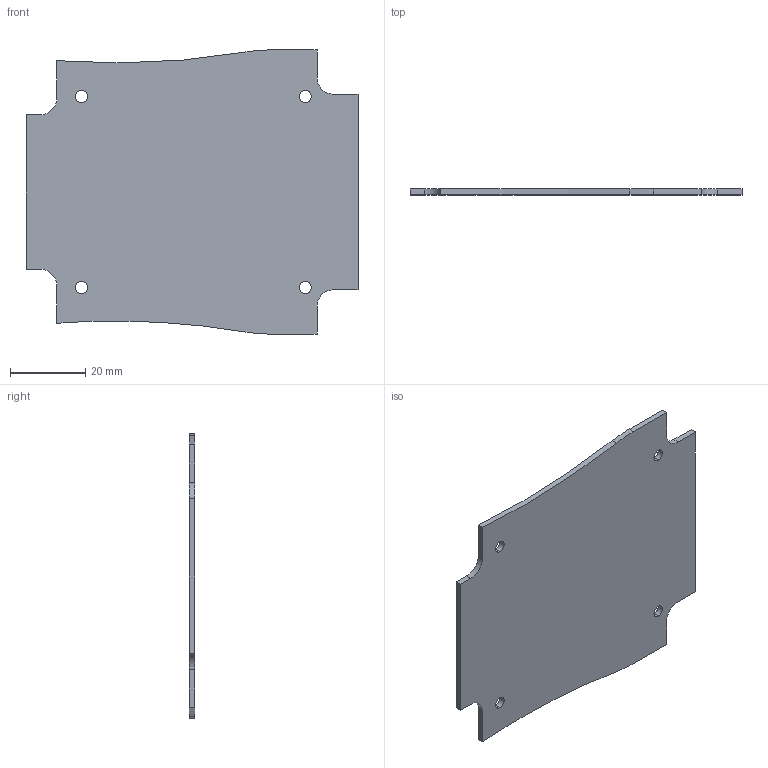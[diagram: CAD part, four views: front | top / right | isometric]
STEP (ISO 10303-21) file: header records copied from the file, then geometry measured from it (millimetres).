
FILE_DESCRIPTION (( 'STEP AP214' ), '1' );
FILE_NAME ('VM-35B-PCB.STEP', '2025-03-26T16:54:01', ( '' ), ( '' ), 'SwSTEP 2.0', 'SolidWorks 2025', '' );
FILE_SCHEMA (( 'AUTOMOTIVE_DESIGN' ));
Length unit declared in the file: inch
Products named in the file (1): VM-35B-PCB
Bounding box: 88.31 x 1.59 x 75.57 mm (x, y, z)
Volume: 9274.4 mm3; surface area: 12247.5 mm2
Topology: 1 solids, 1 shells, 31 faces, 87 edges, 58 vertices
Faces by surface type: cylinder 17, plane 14
Entity records: 1058 total; most frequent: DIRECTION 185, CARTESIAN_POINT 177, ORIENTED_EDGE 174, EDGE_CURVE 87, AXIS2_PLACEMENT_3D 66, VERTEX_POINT 58, VECTOR 53, LINE 53
